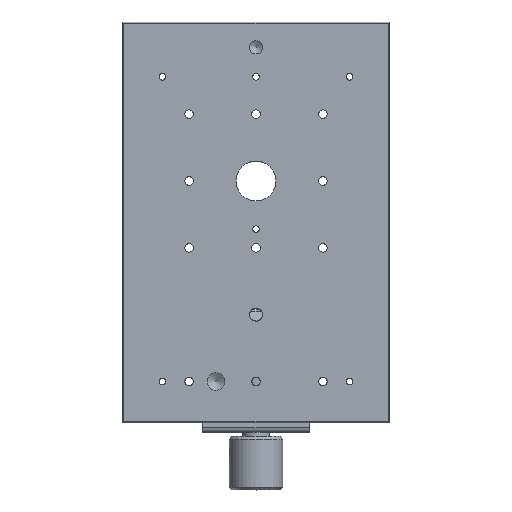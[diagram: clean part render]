
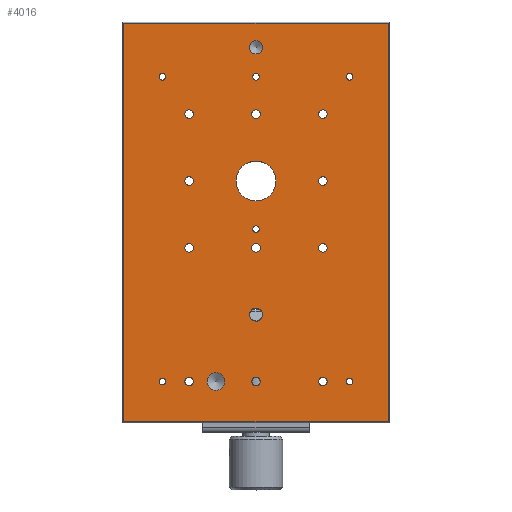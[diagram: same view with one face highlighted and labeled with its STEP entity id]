
A CAD part, top view. The second image highlights one B-rep face of the part: STEP entity #4016.
In plain terms, the highlighted planar face has unit normal (0, 0, 1).
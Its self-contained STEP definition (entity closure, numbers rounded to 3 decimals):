
#3666=CARTESIAN_POINT('',(-49.5,59.,0.));
#3667=VERTEX_POINT('',#3666);
#3668=CARTESIAN_POINT('',(49.5,59.,0.));
#3669=VERTEX_POINT('',#3668);
#3670=CARTESIAN_POINT('',(-49.5,59.,0.));
#3671=DIRECTION('',(1.0,0.0,0.0));
#3672=VECTOR('',#3671,99.0);
#3673=LINE('',#3670,#3672);
#3674=EDGE_CURVE('',#3667,#3669,#3673,.T.);
#3697=CARTESIAN_POINT('',(49.5,-90.0,0.));
#3698=VERTEX_POINT('',#3697);
#3699=CARTESIAN_POINT('',(-49.5,-90.0,0.));
#3700=VERTEX_POINT('',#3699);
#3701=CARTESIAN_POINT('',(49.5,-90.0,0.));
#3702=DIRECTION('',(-1.0,0.0,0.0));
#3703=VECTOR('',#3702,99.0);
#3704=LINE('',#3701,#3703);
#3705=EDGE_CURVE('',#3698,#3700,#3704,.T.);
#3735=CARTESIAN_POINT('',(49.5,59.,0.));
#3736=DIRECTION('',(0.0,-1.0,0.0));
#3737=VECTOR('',#3736,149.);
#3738=LINE('',#3735,#3737);
#3739=EDGE_CURVE('',#3669,#3698,#3738,.T.);
#3752=CARTESIAN_POINT('',(-49.5,-90.0,0.));
#3753=DIRECTION('',(0.0,1.0,0.0));
#3754=VECTOR('',#3753,149.);
#3755=LINE('',#3752,#3754);
#3756=EDGE_CURVE('',#3700,#3667,#3755,.T.);
#3774=CARTESIAN_POINT('',(0.0,-90.5,0.));
#3775=DIRECTION('',(0.0,0.0,1.0));
#3776=DIRECTION('',(1.0,0.0,0.0));
#3777=AXIS2_PLACEMENT_3D('',#3774,#3775,#3776);
#3778=PLANE('',#3777);
#3779=ORIENTED_EDGE('',*,*,#3705,.F.);
#3780=ORIENTED_EDGE('',*,*,#3739,.F.);
#3781=ORIENTED_EDGE('',*,*,#3674,.F.);
#3782=ORIENTED_EDGE('',*,*,#3756,.F.);
#3783=EDGE_LOOP('',(#3779,#3780,#3781,#3782));
#3784=FACE_OUTER_BOUND('',#3783,.T.);
#3785=CARTESIAN_POINT('',(7.459,0.0,0.));
#3786=VERTEX_POINT('',#3785);
#3787=CARTESIAN_POINT('',(0.0,0.0,0.0));
#3788=DIRECTION('',(0.0,0.0,-1.0));
#3789=DIRECTION('',(1.0,0.0,0.0));
#3790=AXIS2_PLACEMENT_3D('',#3787,#3788,#3789);
#3791=CIRCLE('',#3790,7.459);
#3792=EDGE_CURVE('',#3786,#3786,#3791,.T.);
#3793=ORIENTED_EDGE('',*,*,#3792,.T.);
#3794=EDGE_LOOP('',(#3793));
#3795=FACE_BOUND('',#3794,.T.);
#3796=CARTESIAN_POINT('',(1.621,25.0,0.));
#3797=VERTEX_POINT('',#3796);
#3798=CARTESIAN_POINT('',(0.0,25.0,0.0));
#3799=DIRECTION('',(0.0,0.0,-1.0));
#3800=DIRECTION('',(1.0,0.0,0.0));
#3801=AXIS2_PLACEMENT_3D('',#3798,#3799,#3800);
#3802=CIRCLE('',#3801,1.621);
#3803=EDGE_CURVE('',#3797,#3797,#3802,.T.);
#3804=ORIENTED_EDGE('',*,*,#3803,.T.);
#3805=EDGE_LOOP('',(#3804));
#3806=FACE_BOUND('',#3805,.T.);
#3807=CARTESIAN_POINT('',(-23.379,25.0,0.));
#3808=VERTEX_POINT('',#3807);
#3809=CARTESIAN_POINT('',(-25.0,25.0,0.0));
#3810=DIRECTION('',(0.0,0.0,-1.0));
#3811=DIRECTION('',(1.0,0.0,0.0));
#3812=AXIS2_PLACEMENT_3D('',#3809,#3810,#3811);
#3813=CIRCLE('',#3812,1.621);
#3814=EDGE_CURVE('',#3808,#3808,#3813,.T.);
#3815=ORIENTED_EDGE('',*,*,#3814,.T.);
#3816=EDGE_LOOP('',(#3815));
#3817=FACE_BOUND('',#3816,.T.);
#3818=CARTESIAN_POINT('',(-23.379,0.0,0.));
#3819=VERTEX_POINT('',#3818);
#3820=CARTESIAN_POINT('',(-25.0,0.,0.0));
#3821=DIRECTION('',(0.0,0.0,-1.0));
#3822=DIRECTION('',(1.0,0.0,0.0));
#3823=AXIS2_PLACEMENT_3D('',#3820,#3821,#3822);
#3824=CIRCLE('',#3823,1.621);
#3825=EDGE_CURVE('',#3819,#3819,#3824,.T.);
#3826=ORIENTED_EDGE('',*,*,#3825,.T.);
#3827=EDGE_LOOP('',(#3826));
#3828=FACE_BOUND('',#3827,.T.);
#3829=CARTESIAN_POINT('',(-23.379,-25.0,0.));
#3830=VERTEX_POINT('',#3829);
#3831=CARTESIAN_POINT('',(-25.0,-25.0,0.0));
#3832=DIRECTION('',(0.0,0.0,-1.0));
#3833=DIRECTION('',(1.0,0.0,0.0));
#3834=AXIS2_PLACEMENT_3D('',#3831,#3832,#3833);
#3835=CIRCLE('',#3834,1.621);
#3836=EDGE_CURVE('',#3830,#3830,#3835,.T.);
#3837=ORIENTED_EDGE('',*,*,#3836,.T.);
#3838=EDGE_LOOP('',(#3837));
#3839=FACE_BOUND('',#3838,.T.);
#3840=CARTESIAN_POINT('',(1.621,-25.0,0.));
#3841=VERTEX_POINT('',#3840);
#3842=CARTESIAN_POINT('',(0.0,-25.0,0.0));
#3843=DIRECTION('',(0.0,0.0,-1.0));
#3844=DIRECTION('',(1.0,0.0,0.0));
#3845=AXIS2_PLACEMENT_3D('',#3842,#3843,#3844);
#3846=CIRCLE('',#3845,1.621);
#3847=EDGE_CURVE('',#3841,#3841,#3846,.T.);
#3848=ORIENTED_EDGE('',*,*,#3847,.T.);
#3849=EDGE_LOOP('',(#3848));
#3850=FACE_BOUND('',#3849,.T.);
#3851=CARTESIAN_POINT('',(26.621,25.0,0.));
#3852=VERTEX_POINT('',#3851);
#3853=CARTESIAN_POINT('',(25.0,25.0,0.0));
#3854=DIRECTION('',(0.0,0.0,-1.0));
#3855=DIRECTION('',(1.0,0.0,0.0));
#3856=AXIS2_PLACEMENT_3D('',#3853,#3854,#3855);
#3857=CIRCLE('',#3856,1.621);
#3858=EDGE_CURVE('',#3852,#3852,#3857,.T.);
#3859=ORIENTED_EDGE('',*,*,#3858,.T.);
#3860=EDGE_LOOP('',(#3859));
#3861=FACE_BOUND('',#3860,.T.);
#3862=CARTESIAN_POINT('',(26.621,0.0,0.));
#3863=VERTEX_POINT('',#3862);
#3864=CARTESIAN_POINT('',(25.0,0.,0.0));
#3865=DIRECTION('',(0.0,0.0,-1.0));
#3866=DIRECTION('',(1.0,0.0,0.0));
#3867=AXIS2_PLACEMENT_3D('',#3864,#3865,#3866);
#3868=CIRCLE('',#3867,1.621);
#3869=EDGE_CURVE('',#3863,#3863,#3868,.T.);
#3870=ORIENTED_EDGE('',*,*,#3869,.T.);
#3871=EDGE_LOOP('',(#3870));
#3872=FACE_BOUND('',#3871,.T.);
#3873=CARTESIAN_POINT('',(26.621,-25.0,0.));
#3874=VERTEX_POINT('',#3873);
#3875=CARTESIAN_POINT('',(25.0,-25.0,0.0));
#3876=DIRECTION('',(0.0,0.0,-1.0));
#3877=DIRECTION('',(1.0,0.0,0.0));
#3878=AXIS2_PLACEMENT_3D('',#3875,#3876,#3877);
#3879=CIRCLE('',#3878,1.621);
#3880=EDGE_CURVE('',#3874,#3874,#3879,.T.);
#3881=ORIENTED_EDGE('',*,*,#3880,.T.);
#3882=EDGE_LOOP('',(#3881));
#3883=FACE_BOUND('',#3882,.T.);
#3884=CARTESIAN_POINT('',(1.23,-18.,0.));
#3885=VERTEX_POINT('',#3884);
#3886=CARTESIAN_POINT('',(0.0,-18.,0.0));
#3887=DIRECTION('',(0.0,0.0,-1.0));
#3888=DIRECTION('',(1.0,0.0,0.0));
#3889=AXIS2_PLACEMENT_3D('',#3886,#3887,#3888);
#3890=CIRCLE('',#3889,1.23);
#3891=EDGE_CURVE('',#3885,#3885,#3890,.T.);
#3892=ORIENTED_EDGE('',*,*,#3891,.T.);
#3893=EDGE_LOOP('',(#3892));
#3894=FACE_BOUND('',#3893,.T.);
#3895=CARTESIAN_POINT('',(-33.77,-75.,0.));
#3896=VERTEX_POINT('',#3895);
#3897=CARTESIAN_POINT('',(-35.0,-75.,0.0));
#3898=DIRECTION('',(0.0,0.0,-1.0));
#3899=DIRECTION('',(1.0,0.0,0.0));
#3900=AXIS2_PLACEMENT_3D('',#3897,#3898,#3899);
#3901=CIRCLE('',#3900,1.23);
#3902=EDGE_CURVE('',#3896,#3896,#3901,.T.);
#3903=ORIENTED_EDGE('',*,*,#3902,.T.);
#3904=EDGE_LOOP('',(#3903));
#3905=FACE_BOUND('',#3904,.T.);
#3906=CARTESIAN_POINT('',(-33.77,39.,0.));
#3907=VERTEX_POINT('',#3906);
#3908=CARTESIAN_POINT('',(-35.0,39.,0.0));
#3909=DIRECTION('',(0.0,0.0,-1.0));
#3910=DIRECTION('',(1.0,0.0,0.0));
#3911=AXIS2_PLACEMENT_3D('',#3908,#3909,#3910);
#3912=CIRCLE('',#3911,1.23);
#3913=EDGE_CURVE('',#3907,#3907,#3912,.T.);
#3914=ORIENTED_EDGE('',*,*,#3913,.T.);
#3915=EDGE_LOOP('',(#3914));
#3916=FACE_BOUND('',#3915,.T.);
#3917=CARTESIAN_POINT('',(1.229,39.,0.));
#3918=VERTEX_POINT('',#3917);
#3919=CARTESIAN_POINT('',(0.0,39.,0.0));
#3920=DIRECTION('',(0.0,0.0,-1.0));
#3921=DIRECTION('',(1.0,0.0,0.0));
#3922=AXIS2_PLACEMENT_3D('',#3919,#3920,#3921);
#3923=CIRCLE('',#3922,1.23);
#3924=EDGE_CURVE('',#3918,#3918,#3923,.T.);
#3925=ORIENTED_EDGE('',*,*,#3924,.T.);
#3926=EDGE_LOOP('',(#3925));
#3927=FACE_BOUND('',#3926,.T.);
#3928=CARTESIAN_POINT('',(36.23,-75.,0.));
#3929=VERTEX_POINT('',#3928);
#3930=CARTESIAN_POINT('',(35.0,-75.,0.0));
#3931=DIRECTION('',(0.0,0.0,-1.0));
#3932=DIRECTION('',(1.0,0.0,0.0));
#3933=AXIS2_PLACEMENT_3D('',#3930,#3931,#3932);
#3934=CIRCLE('',#3933,1.23);
#3935=EDGE_CURVE('',#3929,#3929,#3934,.T.);
#3936=ORIENTED_EDGE('',*,*,#3935,.T.);
#3937=EDGE_LOOP('',(#3936));
#3938=FACE_BOUND('',#3937,.T.);
#3939=CARTESIAN_POINT('',(36.23,39.,0.));
#3940=VERTEX_POINT('',#3939);
#3941=CARTESIAN_POINT('',(35.0,39.,0.0));
#3942=DIRECTION('',(0.0,0.0,-1.0));
#3943=DIRECTION('',(1.0,0.0,0.0));
#3944=AXIS2_PLACEMENT_3D('',#3941,#3942,#3943);
#3945=CIRCLE('',#3944,1.23);
#3946=EDGE_CURVE('',#3940,#3940,#3945,.T.);
#3947=ORIENTED_EDGE('',*,*,#3946,.T.);
#3948=EDGE_LOOP('',(#3947));
#3949=FACE_BOUND('',#3948,.T.);
#3950=CARTESIAN_POINT('',(1.621,-75.0,0.));
#3951=VERTEX_POINT('',#3950);
#3952=CARTESIAN_POINT('',(0.0,-75.0,0.0));
#3953=DIRECTION('',(0.0,0.0,-1.0));
#3954=DIRECTION('',(1.0,0.0,0.0));
#3955=AXIS2_PLACEMENT_3D('',#3952,#3953,#3954);
#3956=CIRCLE('',#3955,1.621);
#3957=EDGE_CURVE('',#3951,#3951,#3956,.T.);
#3958=ORIENTED_EDGE('',*,*,#3957,.T.);
#3959=EDGE_LOOP('',(#3958));
#3960=FACE_BOUND('',#3959,.T.);
#3961=CARTESIAN_POINT('',(-23.379,-75.0,0.));
#3962=VERTEX_POINT('',#3961);
#3963=CARTESIAN_POINT('',(-25.0,-75.0,0.0));
#3964=DIRECTION('',(0.0,0.0,-1.0));
#3965=DIRECTION('',(1.0,0.0,0.0));
#3966=AXIS2_PLACEMENT_3D('',#3963,#3964,#3965);
#3967=CIRCLE('',#3966,1.621);
#3968=EDGE_CURVE('',#3962,#3962,#3967,.T.);
#3969=ORIENTED_EDGE('',*,*,#3968,.T.);
#3970=EDGE_LOOP('',(#3969));
#3971=FACE_BOUND('',#3970,.T.);
#3972=CARTESIAN_POINT('',(26.621,-75.0,0.));
#3973=VERTEX_POINT('',#3972);
#3974=CARTESIAN_POINT('',(25.0,-75.0,0.0));
#3975=DIRECTION('',(0.0,0.0,-1.0));
#3976=DIRECTION('',(1.0,0.0,0.0));
#3977=AXIS2_PLACEMENT_3D('',#3974,#3975,#3976);
#3978=CIRCLE('',#3977,1.621);
#3979=EDGE_CURVE('',#3973,#3973,#3978,.T.);
#3980=ORIENTED_EDGE('',*,*,#3979,.T.);
#3981=EDGE_LOOP('',(#3980));
#3982=FACE_BOUND('',#3981,.T.);
#3983=CARTESIAN_POINT('',(-11.677,-75.0,0.));
#3984=VERTEX_POINT('',#3983);
#3985=CARTESIAN_POINT('',(-15.0,-75.0,0.0));
#3986=DIRECTION('',(0.0,0.0,-1.0));
#3987=DIRECTION('',(1.0,0.0,0.0));
#3988=AXIS2_PLACEMENT_3D('',#3985,#3986,#3987);
#3989=CIRCLE('',#3988,3.324);
#3990=EDGE_CURVE('',#3984,#3984,#3989,.T.);
#3991=ORIENTED_EDGE('',*,*,#3990,.T.);
#3992=EDGE_LOOP('',(#3991));
#3993=FACE_BOUND('',#3992,.T.);
#3994=CARTESIAN_POINT('',(2.459,50.0,0.));
#3995=VERTEX_POINT('',#3994);
#3996=CARTESIAN_POINT('',(0.0,50.0,0.0));
#3997=DIRECTION('',(0.0,0.0,-1.0));
#3998=DIRECTION('',(1.0,0.0,0.0));
#3999=AXIS2_PLACEMENT_3D('',#3996,#3997,#3998);
#4000=CIRCLE('',#3999,2.459);
#4001=EDGE_CURVE('',#3995,#3995,#4000,.T.);
#4002=ORIENTED_EDGE('',*,*,#4001,.T.);
#4003=EDGE_LOOP('',(#4002));
#4004=FACE_BOUND('',#4003,.T.);
#4005=CARTESIAN_POINT('',(2.459,-50.0,0.));
#4006=VERTEX_POINT('',#4005);
#4007=CARTESIAN_POINT('',(0.0,-50.0,0.0));
#4008=DIRECTION('',(0.0,0.0,-1.0));
#4009=DIRECTION('',(1.0,0.0,0.0));
#4010=AXIS2_PLACEMENT_3D('',#4007,#4008,#4009);
#4011=CIRCLE('',#4010,2.459);
#4012=EDGE_CURVE('',#4006,#4006,#4011,.T.);
#4013=ORIENTED_EDGE('',*,*,#4012,.T.);
#4014=EDGE_LOOP('',(#4013));
#4015=FACE_BOUND('',#4014,.T.);
#4016=ADVANCED_FACE('',(#3784,#3795,#3806,#3817,#3828,#3839,#3850,#3861,#3872,#3883,#3894,#3905,#3916,#3927,#3938,#3949,#3960,#3971,#3982,#3993,#4004,#4015),#3778,.T.);
